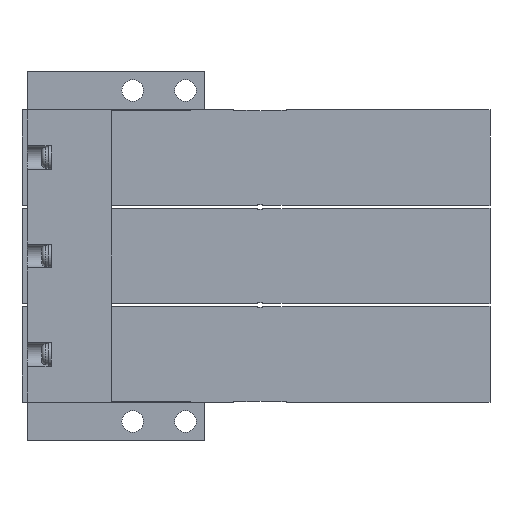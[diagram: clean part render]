
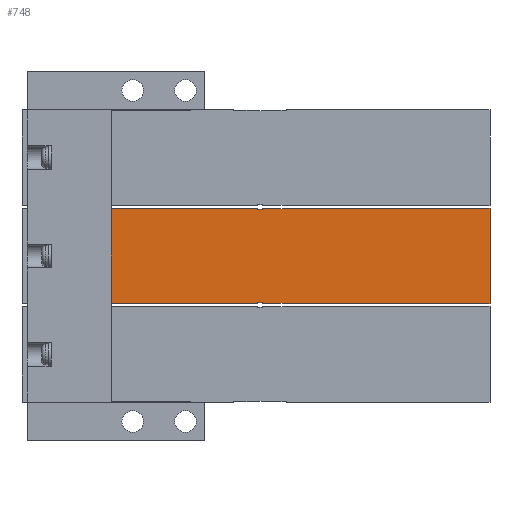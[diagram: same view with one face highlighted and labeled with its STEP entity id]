
A CAD part, front view. The second image highlights one B-rep face of the part: STEP entity #748.
In plain terms, the highlighted planar face has unit normal (0, -1, 0).
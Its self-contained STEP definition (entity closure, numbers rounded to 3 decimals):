
#748=ADVANCED_FACE('',(#1606),#1607,.F.);
#1606=FACE_OUTER_BOUND('',#2633,.T.);
#1607=PLANE('',#2634);
#2633=EDGE_LOOP('',(#5723,#5724,#5725,#5726,#5727,#5728,#5729,#5730,#5731,#5732,#5733,#5734,#5735,#5736,#5737,#5738,#5739,#5740,#5741,#5742,#5743,#5744,#5745,#5746));
#2634=AXIS2_PLACEMENT_3D('',#5747,#5748,#5749);
#5723=ORIENTED_EDGE('',*,*,#7376,.F.);
#5724=ORIENTED_EDGE('',*,*,#7409,.T.);
#5725=ORIENTED_EDGE('',*,*,#7406,.T.);
#5726=ORIENTED_EDGE('',*,*,#7252,.F.);
#5727=ORIENTED_EDGE('',*,*,#7396,.F.);
#5728=ORIENTED_EDGE('',*,*,#7368,.T.);
#5729=ORIENTED_EDGE('',*,*,#7362,.F.);
#5730=ORIENTED_EDGE('',*,*,#7239,.T.);
#5731=ORIENTED_EDGE('',*,*,#7389,.F.);
#5732=ORIENTED_EDGE('',*,*,#7212,.T.);
#5733=ORIENTED_EDGE('',*,*,#7328,.T.);
#5734=ORIENTED_EDGE('',*,*,#7410,.T.);
#5735=ORIENTED_EDGE('',*,*,#7347,.T.);
#5736=ORIENTED_EDGE('',*,*,#7397,.F.);
#5737=ORIENTED_EDGE('',*,*,#7183,.T.);
#5738=ORIENTED_EDGE('',*,*,#7256,.F.);
#5739=ORIENTED_EDGE('',*,*,#7411,.T.);
#5740=ORIENTED_EDGE('',*,*,#7412,.T.);
#5741=ORIENTED_EDGE('',*,*,#7400,.T.);
#5742=ORIENTED_EDGE('',*,*,#7260,.T.);
#5743=ORIENTED_EDGE('',*,*,#7391,.T.);
#5744=ORIENTED_EDGE('',*,*,#7308,.F.);
#5745=ORIENTED_EDGE('',*,*,#7413,.F.);
#5746=ORIENTED_EDGE('',*,*,#7332,.F.);
#5747=CARTESIAN_POINT('',(18.6,0.0,10.0));
#5748=DIRECTION('',(-0.0,1.0,0.0));
#5749=DIRECTION('',(1.0,0.0,0.0));
#7183=EDGE_CURVE('',#8792,#8790,#8793,.T.);
#7212=EDGE_CURVE('',#8848,#8846,#8849,.T.);
#7239=EDGE_CURVE('',#8897,#8895,#8898,.T.);
#7252=EDGE_CURVE('',#8918,#8919,#8920,.T.);
#7256=EDGE_CURVE('',#8925,#8790,#8927,.T.);
#7260=EDGE_CURVE('',#8933,#8931,#8934,.T.);
#7308=EDGE_CURVE('',#9017,#9012,#9019,.T.);
#7328=EDGE_CURVE('',#8846,#9049,#9051,.T.);
#7332=EDGE_CURVE('',#9055,#9057,#9058,.T.);
#7347=EDGE_CURVE('',#9078,#9076,#9079,.T.);
#7362=EDGE_CURVE('',#8897,#9097,#9099,.T.);
#7368=EDGE_CURVE('',#9107,#9097,#9108,.T.);
#7376=EDGE_CURVE('',#9117,#9055,#9120,.T.);
#7389=EDGE_CURVE('',#8848,#8895,#9137,.T.);
#7391=EDGE_CURVE('',#8931,#9012,#9139,.T.);
#7396=EDGE_CURVE('',#9107,#8918,#9145,.T.);
#7397=EDGE_CURVE('',#8792,#9076,#9146,.T.);
#7400=EDGE_CURVE('',#9150,#8933,#9151,.T.);
#7406=EDGE_CURVE('',#9157,#8919,#9160,.T.);
#7409=EDGE_CURVE('',#9117,#9157,#9164,.T.);
#7410=EDGE_CURVE('',#9049,#9078,#9165,.T.);
#7411=EDGE_CURVE('',#8925,#9166,#9167,.T.);
#7412=EDGE_CURVE('',#9166,#9150,#9168,.T.);
#7413=EDGE_CURVE('',#9057,#9017,#9169,.T.);
#8790=VERTEX_POINT('',#11362);
#8792=VERTEX_POINT('',#11365);
#8793=LINE('',#11366,#11367);
#8846=VERTEX_POINT('',#11447);
#8848=VERTEX_POINT('',#11450);
#8849=LINE('',#11451,#11452);
#8895=VERTEX_POINT('',#11519);
#8897=VERTEX_POINT('',#11522);
#8898=LINE('',#11523,#11524);
#8918=VERTEX_POINT('',#11574);
#8919=VERTEX_POINT('',#11575);
#8920=LINE('',#11576,#11577);
#8925=VERTEX_POINT('',#11584);
#8927=LINE('',#11587,#11588);
#8931=VERTEX_POINT('',#11594);
#8933=VERTEX_POINT('',#11597);
#8934=LINE('',#11598,#11599);
#9012=VERTEX_POINT('',#11718);
#9017=VERTEX_POINT('',#11725);
#9019=LINE('',#11728,#11729);
#9049=VERTEX_POINT('',#11774);
#9051=LINE('',#11777,#11778);
#9055=VERTEX_POINT('',#11783);
#9057=VERTEX_POINT('',#11786);
#9058=LINE('',#11787,#11788);
#9076=VERTEX_POINT('',#11819);
#9078=VERTEX_POINT('',#11822);
#9079=LINE('',#11823,#11824);
#9097=VERTEX_POINT('',#11855);
#9099=LINE('',#11858,#11859);
#9107=VERTEX_POINT('',#11872);
#9108=LINE('',#11873,#11874);
#9117=VERTEX_POINT('',#11914);
#9120=LINE('',#11918,#11919);
#9137=LINE('',#11948,#11949);
#9139=LINE('',#11952,#11953);
#9145=LINE('',#11962,#11963);
#9146=LINE('',#11964,#11965);
#9150=VERTEX_POINT('',#11971);
#9151=LINE('',#11972,#11973);
#9157=VERTEX_POINT('',#11982);
#9160=LINE('',#11987,#11988);
#9164=LINE('',#11994,#11995);
#9165=LINE('',#11996,#11997);
#9166=VERTEX_POINT('',#11998);
#9167=LINE('',#11999,#12000);
#9168=LINE('',#12001,#12002);
#9169=LINE('',#12003,#12004);
#11362=CARTESIAN_POINT('',(49.1,0.0,-9.9));
#11365=CARTESIAN_POINT('',(44.1,0.0,-9.9));
#11366=CARTESIAN_POINT('',(44.1,0.0,-9.9));
#11367=VECTOR('',#13399,1.0);
#11447=CARTESIAN_POINT('',(18.6,0.0,-9.9));
#11450=CARTESIAN_POINT('',(18.6,0.0,9.9));
#11451=CARTESIAN_POINT('',(18.6,0.0,10.0));
#11452=VECTOR('',#13428,1.0);
#11519=CARTESIAN_POINT('',(35.1,0.0,9.9));
#11522=CARTESIAN_POINT('',(35.1,0.0,10.0));
#11523=CARTESIAN_POINT('',(35.1,0.0,10.1));
#11524=VECTOR('',#13463,1.0);
#11574=CARTESIAN_POINT('',(49.1,0.0,9.9));
#11575=CARTESIAN_POINT('',(49.1,0.0,9.8));
#11576=CARTESIAN_POINT('',(49.1,0.0,10.0));
#11577=VECTOR('',#13483,1.0);
#11584=CARTESIAN_POINT('',(49.1,0.0,-9.8));
#11587=CARTESIAN_POINT('',(49.1,0.0,10.0));
#11588=VECTOR('',#13487,1.0);
#11594=CARTESIAN_POINT('',(55.1,0.0,-10.0));
#11597=CARTESIAN_POINT('',(55.1,0.0,-9.9));
#11598=CARTESIAN_POINT('',(55.1,0.0,-9.9));
#11599=VECTOR('',#13491,1.0);
#11718=CARTESIAN_POINT('',(97.6,0.0,-10.0));
#11725=CARTESIAN_POINT('',(97.6,0.0,10.0));
#11728=CARTESIAN_POINT('',(97.6,0.0,10.0));
#11729=VECTOR('',#13545,1.0);
#11774=CARTESIAN_POINT('',(35.1,0.0,-9.9));
#11777=CARTESIAN_POINT('',(18.6,0.0,-9.9));
#11778=VECTOR('',#13571,1.0);
#11783=CARTESIAN_POINT('',(55.1,0.0,9.9));
#11786=CARTESIAN_POINT('',(55.1,0.0,10.0));
#11787=CARTESIAN_POINT('',(55.1,0.0,9.9));
#11788=VECTOR('',#13577,1.0);
#11819=CARTESIAN_POINT('',(44.1,0.0,-10.0));
#11822=CARTESIAN_POINT('',(35.1,0.0,-10.0));
#11823=CARTESIAN_POINT('',(18.6,0.0,-10.0));
#11824=VECTOR('',#13592,1.0);
#11855=CARTESIAN_POINT('',(44.1,0.0,10.0));
#11858=CARTESIAN_POINT('',(18.6,0.0,10.0));
#11859=VECTOR('',#13607,1.0);
#11872=CARTESIAN_POINT('',(44.1,0.0,9.9));
#11873=CARTESIAN_POINT('',(44.1,0.0,9.9));
#11874=VECTOR('',#13613,1.0);
#11914=CARTESIAN_POINT('',(50.1,0.0,9.9));
#11918=CARTESIAN_POINT('',(44.1,0.0,9.9));
#11919=VECTOR('',#13622,1.0);
#11948=CARTESIAN_POINT('',(18.6,0.0,9.9));
#11949=VECTOR('',#13635,1.0);
#11952=CARTESIAN_POINT('',(18.6,0.0,-10.0));
#11953=VECTOR('',#13637,1.0);
#11962=CARTESIAN_POINT('',(44.1,0.0,9.9));
#11963=VECTOR('',#13644,1.0);
#11964=CARTESIAN_POINT('',(44.1,0.0,-9.9));
#11965=VECTOR('',#13645,1.0);
#11971=CARTESIAN_POINT('',(50.1,0.0,-9.9));
#11972=CARTESIAN_POINT('',(44.1,0.0,-9.9));
#11973=VECTOR('',#13648,1.0);
#11982=CARTESIAN_POINT('',(50.1,0.0,9.8));
#11987=CARTESIAN_POINT('',(18.6,0.0,9.8));
#11988=VECTOR('',#13654,1.0);
#11994=CARTESIAN_POINT('',(50.1,0.0,10.0));
#11995=VECTOR('',#13657,1.0);
#11996=CARTESIAN_POINT('',(35.1,0.0,-9.9));
#11997=VECTOR('',#13658,1.0);
#11998=CARTESIAN_POINT('',(50.1,0.0,-9.8));
#11999=CARTESIAN_POINT('',(18.6,0.0,-9.8));
#12000=VECTOR('',#13659,1.0);
#12001=CARTESIAN_POINT('',(50.1,0.0,10.0));
#12002=VECTOR('',#13660,1.0);
#12003=CARTESIAN_POINT('',(18.6,0.0,10.0));
#12004=VECTOR('',#13661,1.0);
#13399=DIRECTION('',(1.0,0.0,0.0));
#13428=DIRECTION('',(0.0,0.0,-1.0));
#13463=DIRECTION('',(0.0,0.0,-1.0));
#13483=DIRECTION('',(0.0,0.0,-1.0));
#13487=DIRECTION('',(0.0,0.0,-1.0));
#13491=DIRECTION('',(0.0,0.0,-1.0));
#13545=DIRECTION('',(0.0,0.0,-1.0));
#13571=DIRECTION('',(1.0,0.0,0.0));
#13577=DIRECTION('',(0.0,0.0,1.0));
#13592=DIRECTION('',(1.0,0.0,0.0));
#13607=DIRECTION('',(1.0,0.0,0.0));
#13613=DIRECTION('',(0.0,0.0,1.0));
#13622=DIRECTION('',(1.0,0.0,0.0));
#13635=DIRECTION('',(1.0,0.0,0.0));
#13637=DIRECTION('',(1.0,0.0,0.0));
#13644=DIRECTION('',(1.0,0.0,0.0));
#13645=DIRECTION('',(0.0,0.0,-1.0));
#13648=DIRECTION('',(1.0,0.0,0.0));
#13654=DIRECTION('',(-1.0,0.0,0.0));
#13657=DIRECTION('',(0.0,0.0,-1.0));
#13658=DIRECTION('',(0.0,0.0,-1.0));
#13659=DIRECTION('',(1.0,0.0,0.0));
#13660=DIRECTION('',(0.0,0.0,-1.0));
#13661=DIRECTION('',(1.0,0.0,0.0));
